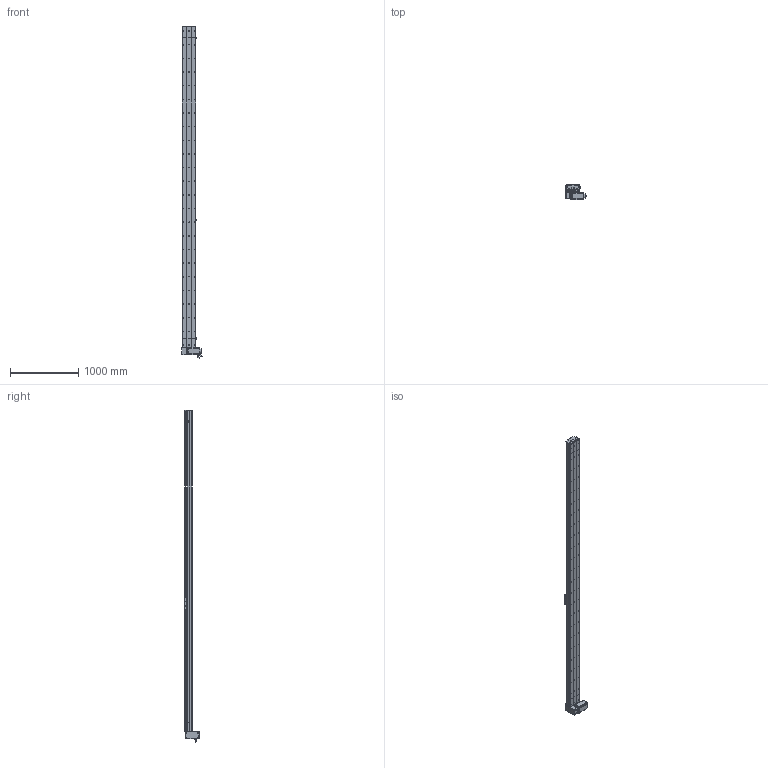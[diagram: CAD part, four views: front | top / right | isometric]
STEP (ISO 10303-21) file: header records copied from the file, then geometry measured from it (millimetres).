
FILE_DESCRIPTION (( 'STEP AP214' ), '1' );
FILE_NAME ('D20 TBH RU S4400.STEP', '2010-07-01T09:26:56', ( 'Conseil Régional Haute-Normandie' ), ( 'Conseil Régional Haute-Normandie' ), 'SwSTEP 2.0', 'SolidWorks 2010', '' );
FILE_SCHEMA (( 'AUTOMOTIVE_DESIGN' ));
Length unit declared in the file: millimetre
Products named in the file (40): couvercle tail D20_Default; poulie tail D20_Default; rail tail D20; head RU_Default; D20 TBH RU S4400; Course B L4400_Default; corp D20 S4400_Default; couvercle D20 S4400_Default; chariot D20B_Default; Chariot D20B; tail D20_Default; guide D20B; vis M5 L8 90°_Default; corpl tail D20_Default; poulie head D20_Default; couvercle head D20_Default; rail head D20; corpl head D20_Default; cache arbre D20_Default; plaque de  bout head D20B RU_Default; vis M5 L25_Default; vis M5 L5_Default; couroie_Default; cache D20_Default; vis M5 L70_Default; Plaque racord D20LH_Default; Renvoi RU D20_Default; corps 110BLDC170A-630x; avant 110BLDC170A-630x; Moteur motionking 110BLDC170A-640x; Conecteur_Default; Conecteur2_Default; codeur 110BLDC170A-630x; vis M5 L12_Default; vis M8 L12_Default; clavette; Couroie tail D20_Default; rail + couroie  D20 S4400; plaque de  bout tail D20_Default; tete d''axe poulie D20B
Assembly tree (71 placements, depth 4):
  D20 TBH RU S4400
    chariot D20B_Default
      vis M5 L12_Default  x4
      guide D20B  x2
      Chariot D20B
    tail D20_Default
      corpl tail D20_Default
      vis M5 L8 90°_Default  x2
      tete d''axe poulie D20B
      vis M5 L12_Default  x4
      plaque de  bout tail D20_Default
      poulie tail D20_Default
      vis M5 L25_Default  x2
      Couroie tail D20_Default
      couvercle tail D20_Default
      rail tail D20
    Course B L4400_Default
      corp D20 S4400_Default
      rail + couroie  D20 S4400
      couvercle D20 S4400_Default
    head RU_Default
      vis M5 L12_Default  x10
      cache D20_Default  x2
      couroie_Default
      vis M5 L5_Default  x4
      poulie head D20_Default
      vis M5 L70_Default  x4
      plaque de  bout head D20B RU_Default
      vis M8 L12_Default  x4
      couvercle head D20_Default
      vis M5 L25_Default  x2
      rail head D20
      cache arbre D20_Default
      Renvoi RU D20_Default
      corpl head D20_Default
      Plaque racord D20LH_Default
      Moteur motionking 110BLDC170A-640x
        avant 110BLDC170A-630x
        codeur 110BLDC170A-630x
        Conecteur2_Default
        Conecteur_Default
        corps 110BLDC170A-630x
        clavette
Bounding box: 304.2 x 223.2 x 4865 mm (x, y, z)
Volume: 36641005.3 mm3; surface area: 9196219.7 mm2
Topology: 95 solids, 95 shells, 2981 faces, 7803 edges, 5053 vertices
Faces by surface type: plane 1662, cylinder 995, bspline 136, cone 99, torus 89
Entity records: 99204 total; most frequent: CARTESIAN_POINT 32833, ORIENTED_EDGE 12262, DIRECTION 11432, EDGE_CURVE 6131, VERTEX_POINT 4039, AXIS2_PLACEMENT_3D 3830, LINE 3772, VECTOR 3772
